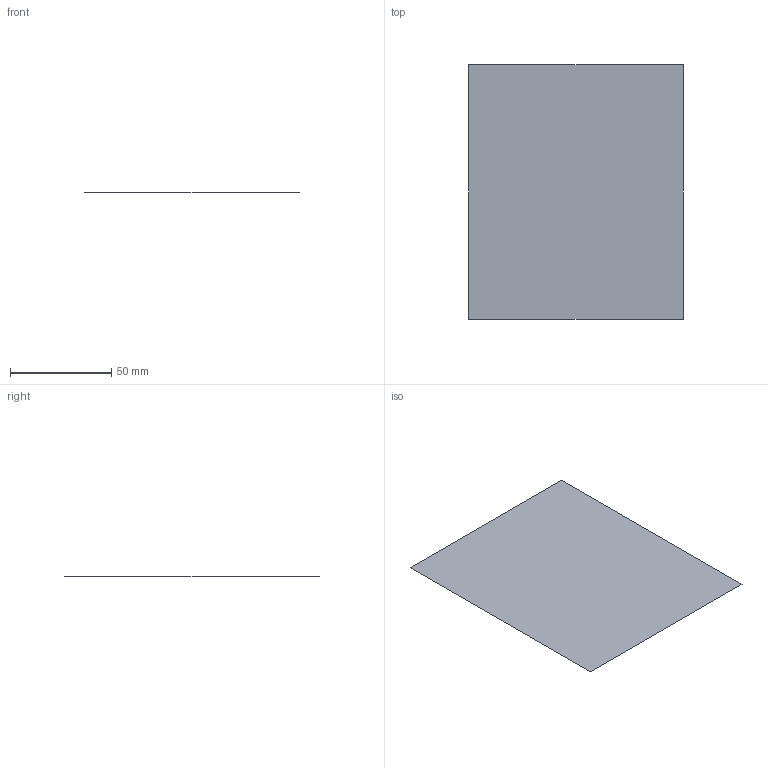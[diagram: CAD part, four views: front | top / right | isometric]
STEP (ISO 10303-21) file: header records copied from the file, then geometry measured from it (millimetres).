
FILE_DESCRIPTION(('CATIA V5 STEP Exchange'),'2;1');
FILE_NAME('C:\_Andres\UNIVERSIDAD\IQS\ASIGNATURAS\DAO\EXF\EXF-15161c\1original\Molins_Gutiérrez_Ej06-calculo_v16.stp','2016-03-04T20:57:43+00:00',('none'),('none'),'CATIA Version 5 Release 20 SP 1 (IN-10)','CATIA V5 STEP AP203','none');
FILE_SCHEMA(('CONFIG_CONTROL_DESIGN'));
Length unit declared in the file: millimetre
Products named in the file (1): Molins_Gutiérrez_Ej06-calculo_v16
Bounding box: 106 x 126 x 0 mm (x, y, z)
Surface area: 13356 mm2 (no closed solid volume)
Topology: 0 solids, 1 shells, 1 faces, 8 edges, 9 vertices
Faces by surface type: plane 1
Entity records: 130 total; most frequent: CARTESIAN_POINT 23, DIRECTION 12, VECTOR 8, LINE 8, COMPOSITE_CURVE_SEGMENT 4, ORIENTED_EDGE 4, CC_DESIGN_PERSON_AND_ORGANIZATION_ASSIGNMENT 4, PERSON_AND_ORGANIZATION_ROLE 4
